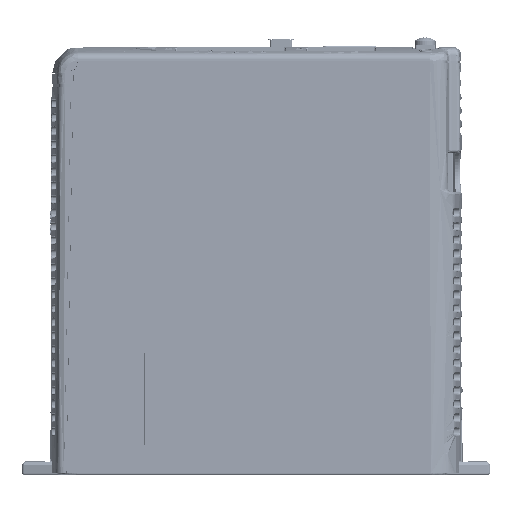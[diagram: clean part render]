
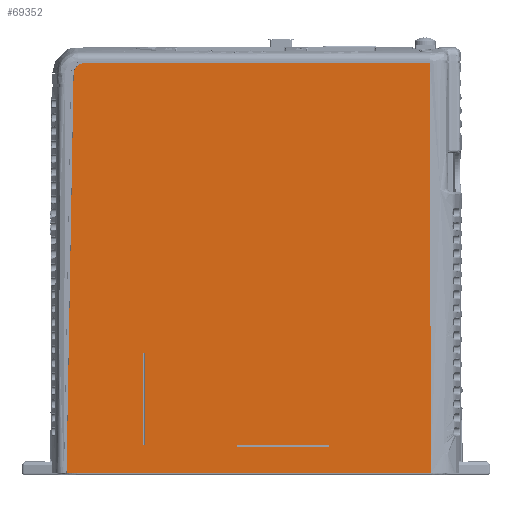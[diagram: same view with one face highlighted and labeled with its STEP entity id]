
A CAD part, left-side view. The second image highlights one B-rep face of the part: STEP entity #69352.
In plain terms, the highlighted planar face has unit normal (-1, 0, 0.004).
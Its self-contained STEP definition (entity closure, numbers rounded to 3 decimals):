
#1138 = CARTESIAN_POINT ( 'NONE',  ( -32.599, -44.166, 74.771 ) ) ;
#5652 = CARTESIAN_POINT ( 'NONE',  ( -33.108, 29.267, -71.052 ) ) ;
#7517 = CARTESIAN_POINT ( 'NONE',  ( -33.106, 64.267, -70.452 ) ) ;
#15635 = VERTEX_POINT ( 'NONE', #334637 ) ;
#19249 = CARTESIAN_POINT ( 'NONE',  ( -32.91, -44.398, -14.386 ) ) ;
#20978 = EDGE_LOOP ( 'NONE', ( #169842, #623849, #435240, #204555 ) ) ;
#39154 = DIRECTION ( 'NONE',  ( 0.003, 0., 1. ) ) ;
#51730 = CARTESIAN_POINT ( 'NONE',  ( -32.612, 91.206, 70.86 ) ) ;
#53431 = DIRECTION ( 'NONE',  ( 0., -1., 0. ) ) ;
#62809 = CARTESIAN_POINT ( 'NONE',  ( -32.599, 87.189, 74.771 ) ) ;
#69352 = ADVANCED_FACE ( 'NONE', ( #597635, #306124, #177668 ), #635955, .T. ) ;
#74260 = CARTESIAN_POINT ( 'NONE',  ( -32.748, -44.277, 32.059 ) ) ;
#74362 = VERTEX_POINT ( 'NONE', #536300 ) ;
#77857 = VERTEX_POINT ( 'NONE', #474766 ) ;
#100966 = ORIENTED_EDGE ( 'NONE', *, *, #393881, .F. ) ;
#104071 = CARTESIAN_POINT ( 'NONE',  ( -33.106, 64.867, -70.452 ) ) ;
#114091 = VECTOR ( 'NONE', #644515, 1000. ) ;
#129394 = CARTESIAN_POINT ( 'NONE',  ( -32.656, -44.209, 58.281 ) ) ;
#136204 = CARTESIAN_POINT ( 'NONE',  ( -33.108, -5.733, -71.052 ) ) ;
#136771 = ORIENTED_EDGE ( 'NONE', *, *, #362407, .F. ) ;
#137784 = EDGE_CURVE ( 'NONE', #15635, #504978, #580259, .T. ) ;
#140489 = VERTEX_POINT ( 'NONE', #602662 ) ;
#145993 = CARTESIAN_POINT ( 'NONE',  ( -32.612, 91.206, 70.86 ) ) ;
#147948 = VECTOR ( 'NONE', #513211, 1000. ) ;
#166831 = LINE ( 'NONE', #415957, #458426 ) ;
#167885 = EDGE_CURVE ( 'NONE', #224184, #203771, #259815, .T. ) ;
#169842 = ORIENTED_EDGE ( 'NONE', *, *, #672438, .F. ) ;
#177668 = FACE_BOUND ( 'NONE', #285948, .T. ) ;
#179858 = CARTESIAN_POINT ( 'NONE',  ( -32.983, 64.867, -35.453 ) ) ;
#182264 = CARTESIAN_POINT ( 'NONE',  ( -33.143, -44.571, -81.052 ) ) ;
#184616 = CARTESIAN_POINT ( 'NONE',  ( -32.618, -44.18, 69.275 ) ) ;
#184955 = CARTESIAN_POINT ( 'NONE',  ( -32.599, -44.571, 74.771 ) ) ;
#185487 = CARTESIAN_POINT ( 'NONE',  ( -33.106, 64.867, -70.452 ) ) ;
#191302 = DIRECTION ( 'NONE',  ( 0.003, 0., 1. ) ) ;
#193091 = LINE ( 'NONE', #185487, #467395 ) ;
#203026 = VERTEX_POINT ( 'NONE', #145993 ) ;
#203771 = VERTEX_POINT ( 'NONE', #425115 ) ;
#204555 = ORIENTED_EDGE ( 'NONE', *, *, #414862, .F. ) ;
#219436 = LINE ( 'NONE', #136204, #236645 ) ;
#223206 = CARTESIAN_POINT ( 'NONE',  ( -33.108, 29.267, -71.052 ) ) ;
#224184 = VERTEX_POINT ( 'NONE', #626862 ) ;
#236645 = VECTOR ( 'NONE', #191302, 1000. ) ;
#237201 = CARTESIAN_POINT ( 'NONE',  ( -33.026, -44.485, -47.719 ) ) ;
#240390 = DIRECTION ( 'NONE',  ( -0.003, 0., -1. ) ) ;
#242587 = VECTOR ( 'NONE', #560781, 1000. ) ;
#249820 = CARTESIAN_POINT ( 'NONE',  ( -32.613, 87.206, 70.771 ) ) ;
#251102 = EDGE_CURVE ( 'NONE', #360027, #15635, #373151, .T. ) ;
#259723 = LINE ( 'NONE', #179858, #242587 ) ;
#259815 = LINE ( 'NONE', #313851, #114091 ) ;
#285948 = EDGE_LOOP ( 'NONE', ( #136771, #100966, #426099, #440551 ) ) ;
#289136 = VECTOR ( 'NONE', #636440, 1000. ) ;
#295784 = LINE ( 'NONE', #51730, #587281 ) ;
#304988 = DIRECTION ( 'NONE',  ( 0.003, -0.004, 1. ) ) ;
#306124 = FACE_OUTER_BOUND ( 'NONE', #645123, .T. ) ;
#307929 = ORIENTED_EDGE ( 'NONE', *, *, #251102, .T. ) ;
#313851 = CARTESIAN_POINT ( 'NONE',  ( -33.106, 29.267, -70.452 ) ) ;
#333096 = VERTEX_POINT ( 'NONE', #223206 ) ;
#334637 = CARTESIAN_POINT ( 'NONE',  ( -33.143, -44.571, -81.052 ) ) ;
#337808 = CIRCLE ( 'NONE', #356847, 4. ) ;
#356847 = AXIS2_PLACEMENT_3D ( 'NONE', #249820, #633215, #304988 ) ;
#360027 = VERTEX_POINT ( 'NONE', #680139 ) ;
#362407 = EDGE_CURVE ( 'NONE', #444231, #696823, #569885, .T. ) ;
#363404 = VERTEX_POINT ( 'NONE', #62809 ) ;
#367427 = DIRECTION ( 'NONE',  ( -1., 0., 0.003 ) ) ;
#369577 = EDGE_CURVE ( 'NONE', #140489, #77857, #259723, .T. ) ;
#373151 = LINE ( 'NONE', #710043, #647563 ) ;
#374385 = AXIS2_PLACEMENT_3D ( 'NONE', #695703, #367427, #39154 ) ;
#376180 = LINE ( 'NONE', #5652, #667902 ) ;
#388892 = DIRECTION ( 'NONE',  ( 0., -1., 0. ) ) ;
#393881 = EDGE_CURVE ( 'NONE', #77857, #444231, #193091, .T. ) ;
#396707 = ORIENTED_EDGE ( 'NONE', *, *, #415014, .T. ) ;
#402500 = CARTESIAN_POINT ( 'NONE',  ( -32.793, -44.311, 18.947 ) ) ;
#414862 = EDGE_CURVE ( 'NONE', #74362, #224184, #219436, .T. ) ;
#415014 = EDGE_CURVE ( 'NONE', #203026, #360027, #295784, .T. ) ;
#415854 = EDGE_CURVE ( 'NONE', #504978, #363404, #439440, .T. ) ;
#415957 = CARTESIAN_POINT ( 'NONE',  ( -33.106, 64.267, -70.452 ) ) ;
#423963 = VECTOR ( 'NONE', #510013, 1000. ) ;
#425115 = CARTESIAN_POINT ( 'NONE',  ( -33.106, 29.267, -70.452 ) ) ;
#426099 = ORIENTED_EDGE ( 'NONE', *, *, #369577, .F. ) ;
#435216 = DIRECTION ( 'NONE',  ( -0.003, 0.018, -1. ) ) ;
#435240 = ORIENTED_EDGE ( 'NONE', *, *, #167885, .F. ) ;
#439440 = LINE ( 'NONE', #184955, #147948 ) ;
#440551 = ORIENTED_EDGE ( 'NONE', *, *, #482721, .F. ) ;
#444231 = VERTEX_POINT ( 'NONE', #104071 ) ;
#457696 = CARTESIAN_POINT ( 'NONE',  ( -32.702, -44.243, 45.17 ) ) ;
#458426 = VECTOR ( 'NONE', #526230, 1000. ) ;
#467395 = VECTOR ( 'NONE', #240390, 1000. ) ;
#474766 = CARTESIAN_POINT ( 'NONE',  ( -32.983, 64.867, -35.453 ) ) ;
#482721 = EDGE_CURVE ( 'NONE', #696823, #140489, #166831, .T. ) ;
#500502 = CARTESIAN_POINT ( 'NONE',  ( -33.106, 64.867, -70.452 ) ) ;
#504978 = VERTEX_POINT ( 'NONE', #1138 ) ;
#510013 = DIRECTION ( 'NONE',  ( 0., -1., 0. ) ) ;
#511906 = ORIENTED_EDGE ( 'NONE', *, *, #518929, .T. ) ;
#512901 = CARTESIAN_POINT ( 'NONE',  ( -32.637, -44.195, 63.778 ) ) ;
#513211 = DIRECTION ( 'NONE',  ( 0., 1., 0. ) ) ;
#518929 = EDGE_CURVE ( 'NONE', #363404, #203026, #337808, .T. ) ;
#526230 = DIRECTION ( 'NONE',  ( 0.003, 0., 1. ) ) ;
#536300 = CARTESIAN_POINT ( 'NONE',  ( -33.108, -5.733, -71.052 ) ) ;
#560781 = DIRECTION ( 'NONE',  ( 0., 1., 0. ) ) ;
#567933 = CARTESIAN_POINT ( 'NONE',  ( -32.599, -44.166, 74.771 ) ) ;
#569885 = LINE ( 'NONE', #500502, #423963 ) ;
#580259 = B_SPLINE_CURVE_WITH_KNOTS ( 'NONE', 3,
 ( #182264, #237201, #19249, #402500, #74260, #457696, #129394, #512901, #184616, #567933 ),
 .UNSPECIFIED., .F., .F.,
 ( 4, 3, 3, 4 ),
 ( 0., 0.1, 0.139, 0.156 ),
 .UNSPECIFIED. ) ;
#580601 = LINE ( 'NONE', #634106, #289136 ) ;
#587281 = VECTOR ( 'NONE', #435216, 1000. ) ;
#597635 = FACE_BOUND ( 'NONE', #20978, .T. ) ;
#599227 = EDGE_CURVE ( 'NONE', #203771, #333096, #580601, .T. ) ;
#602662 = CARTESIAN_POINT ( 'NONE',  ( -32.983, 64.267, -35.453 ) ) ;
#623849 = ORIENTED_EDGE ( 'NONE', *, *, #599227, .F. ) ;
#626862 = CARTESIAN_POINT ( 'NONE',  ( -33.106, -5.733, -70.452 ) ) ;
#628077 = ORIENTED_EDGE ( 'NONE', *, *, #415854, .T. ) ;
#633215 = DIRECTION ( 'NONE',  ( -1., 0., 0.003 ) ) ;
#634106 = CARTESIAN_POINT ( 'NONE',  ( -33.108, 29.267, -71.052 ) ) ;
#635955 = PLANE ( 'NONE',  #374385 ) ;
#636440 = DIRECTION ( 'NONE',  ( -0.003, 0., -1. ) ) ;
#644515 = DIRECTION ( 'NONE',  ( 0., 1., 0. ) ) ;
#645123 = EDGE_LOOP ( 'NONE', ( #511906, #396707, #307929, #678292, #628077 ) ) ;
#647563 = VECTOR ( 'NONE', #53431, 1000. ) ;
#667902 = VECTOR ( 'NONE', #388892, 1000. ) ;
#672438 = EDGE_CURVE ( 'NONE', #333096, #74362, #376180, .T. ) ;
#678292 = ORIENTED_EDGE ( 'NONE', *, *, #137784, .T. ) ;
#680139 = CARTESIAN_POINT ( 'NONE',  ( -33.143, 93.889, -81.052 ) ) ;
#695703 = CARTESIAN_POINT ( 'NONE',  ( -33.143, -44.571, -81.052 ) ) ;
#696823 = VERTEX_POINT ( 'NONE', #7517 ) ;
#710043 = CARTESIAN_POINT ( 'NONE',  ( -33.143, -44.571, -81.052 ) ) ;
